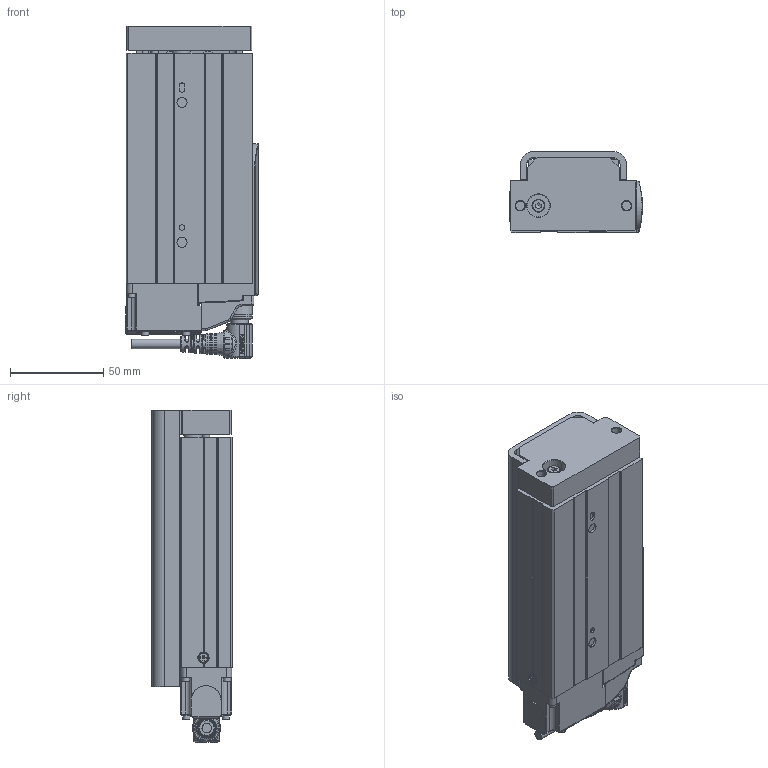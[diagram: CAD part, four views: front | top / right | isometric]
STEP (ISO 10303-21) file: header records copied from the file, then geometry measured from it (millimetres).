
FILE_DESCRIPTION(/* description */ ('STEP AP203'),/* implementation_level */ '2;1');
FILE_NAME(/* name */ 'D:\暫\2025.02.06 CSG 3D\CSG25-B\CSG25-S75-B-WR.stp',/* time_stamp */ '2025-02-08T10:37:31+08:00',/* author */ ('T10033'),/* organization */ (''),/* preprocessor_version */ 'ST-DEVELOPER v18.1',/* originating_system */ 'Autodesk Inventor 2020',/* authorisation */ '');
FILE_SCHEMA (('CONFIG_CONTROL_DESIGN'));
Products named in the file (26): CSG25-50行程-煞車; ©T©wªO-·¥­­¾×ª
O4-M2¤ú; M12 -14PIN  ªOºÝ-²Ä¤@ºØ
³W®æ; countersunk flat head cross recess screw_iso_ISO 7046-1 - M2.5 x 4 - 
Z - 4N; ¶ì½¦ºÝ»-L¼Ë¦¡(TOYO)-°
t¦XPCB(·Ù¨®¥Î)-DF3±µÀYª½
±µ©ñ¤Jª©; IS 2269 - M2 x 10; ISO 4762 - M2.5 x 6ISO; PCB; 43T34 TFSDR_Shrinkwrap_1; M12-14PIN 線端90度接頭-05中繼線; T632T6W34; 22035-000061(G4ªo¯]); countersunk flat head cross recess screw_iso_ISO 7046-1 - M2.5 x 4 - 
Z - 4N_1; ©T©wªO-·¥­­¾×ª
O4-M2¤ú_1; socket head cap screw_iso_ISO 4762 M2.5 x 6 - 6N; socket head cap screw_iso_ISO 4762 M2.5 x 8 - 8N; socket head cap screw_iso_ISO 4762 M2 x 12 - 12N; M12 -14PIN  ªOºÝ-²Ä¤@ºØ
³W®æ_1; CSG25-50¥»Åé3ª©-ªo¤Õ
½Õ¾ã¨¤«×; CSG25-Carriage-newtype; Solid1-2; 12003-000221-­×§ï; 22024-000496; CNS 3932 - M 4 x 0.7 x 12; socket head cap screw_iso_ISO 4762 M2.5 x 5 - 5N; CNS 4558 - M5 x 0.8 x 12
Assembly tree (37 placements, depth 3):
  CSG25-50行程-煞車
    ©T©wªO-·¥­­¾×ª
O4-M2¤ú
    M12 -14PIN  ªOºÝ-²Ä¤@ºØ
³W®æ
    countersunk flat head cross recess screw_iso_ISO 7046-1 - M2.5 x 4 - 
Z - 4N
    ¶ì½¦ºÝ»-L¼Ë¦¡(TOYO)-°
t¦XPCB(·Ù¨®¥Î)-DF3±µÀYª½
±µ©ñ¤Jª©
    IS 2269 - M2 x 10  x2
    ISO 4762 - M2.5 x 6ISO  x2
    PCB
    43T34 TFSDR_Shrinkwrap_1
    M12-14PIN 線端90度接頭-05中繼線
    T632T6W34
      22035-000061(G4ªo¯])
      socket head cap screw_iso_ISO 4762 M2.5 x 8 - 8N  x8
      countersunk flat head cross recess screw_iso_ISO 7046-1 - M2.5 x 4 - 
Z - 4N_1
      ©T©wªO-·¥­­¾×ª
O4-M2¤ú_1
      socket head cap screw_iso_ISO 4762 M2.5 x 6 - 6N  x2
      socket head cap screw_iso_ISO 4762 M2 x 12 - 12N  x2
      M12 -14PIN  ªOºÝ-²Ä¤@ºØ
³W®æ_1
      CSG25-50¥»Åé3ª©-ªo¤Õ
½Õ¾ã¨¤«×
      CSG25-Carriage-newtype
      Solid1-2
      12003-000221-­×§ï
      22024-000496
      CNS 3932 - M 4 x 0.7 x 12
      socket head cap screw_iso_ISO 4762 M2.5 x 5 - 5N
      CNS 4558 - M5 x 0.8 x 12  x2
Bounding box: 71.25 x 43.5 x 178 mm (x, y, z)
Volume: 362670.9 mm3; surface area: 99792.2 mm2
Topology: 51 solids, 60 shells, 3197 faces, 8687 edges, 5741 vertices
Faces by surface type: plane 1592, cylinder 629, bspline 482, cone 334, torus 147, sphere 13
Full cylindrical faces by diameter (mm): 0.6 x28, 0.65 x14, 1 x14, 1.567 x1, 1.6 x4, 2 x6, 2.05 x5, 2.5 x20, 2.9 x2, 3 x3, 3.8 x10, 4 x1, 4.134 x8, 4.5 x15, 4.7 x2, 4.95 x1, 5 x7, 5.2 x1, 5.3 x2, 5.4 x4, 5.5 x4, 6 x3, 7 x1, 8 x1, 8.9 x1, 9 x12, 9.5 x2, 9.6 x1, 10 x6, 10.4 x2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
Entity records: 121804 total; most frequent: CARTESIAN_POINT 44702, ORIENTED_EDGE 16105, DIRECTION 14952, EDGE_CURVE 8071, AXIS2_PLACEMENT_3D 5423, VERTEX_POINT 5362, LINE 4106, VECTOR 4106
